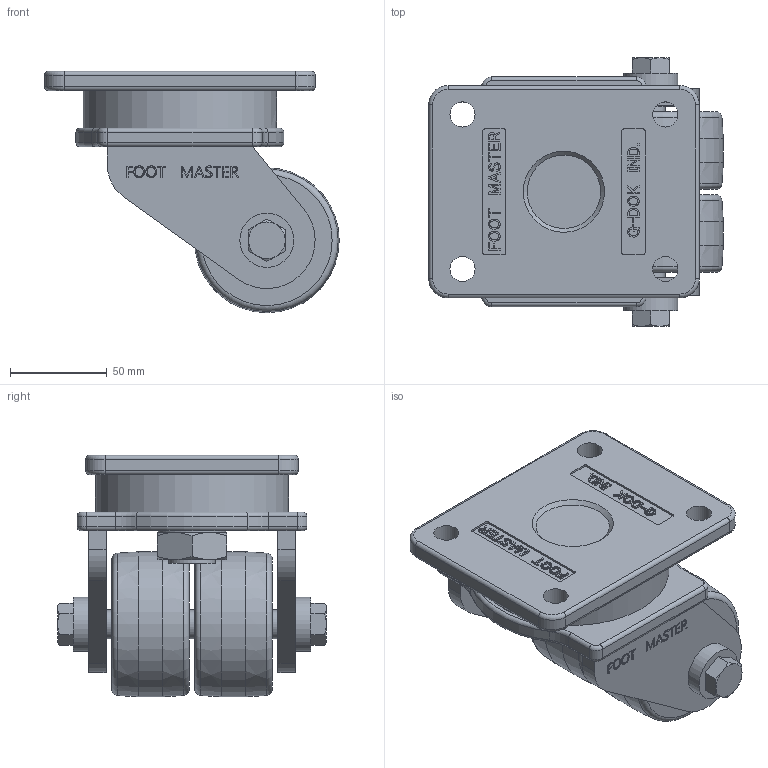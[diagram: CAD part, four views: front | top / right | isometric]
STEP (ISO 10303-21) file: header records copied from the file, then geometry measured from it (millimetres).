
FILE_DESCRIPTION((''),'2;1');
FILE_NAME('E:\GXTT\가져온 구성요소\GXTT-75 SF-3D\GXTT-75-ASF.stp','2011-11-21T09:45:41',('Administrator'),(''),'Autodesk Inventor 2011','Autodesk Inventor 2011','');
FILE_SCHEMA(('AUTOMOTIVE_DESIGN { 1 0 10303 214 1 1 1 1 }'));
Length unit declared in the file: millimetre
Products named in the file (1): GXTT-75-ASF
Bounding box: 152.5 x 139 x 125 mm (x, y, z)
Volume: 873467.8 mm3; surface area: 114563.2 mm2
Topology: 1 solids, 3 shells, 807 faces, 2116 edges, 1386 vertices
Faces by surface type: plane 419, bspline 264, cylinder 64, torus 32, cone 28
Full cylindrical faces by diameter (mm): 2 x1, 5.153 x1, 7 x1, 13 x4, 15 x3, 24 x2, 28 x2, 34.8 x1, 75 x2, 100 x1
Entity records: 25835 total; most frequent: CARTESIAN_POINT 7877, ORIENTED_EDGE 4152, DIRECTION 2791, EDGE_CURVE 2076, VERTEX_POINT 1377, VECTOR 1305, LINE 1305, EDGE_LOOP 921
